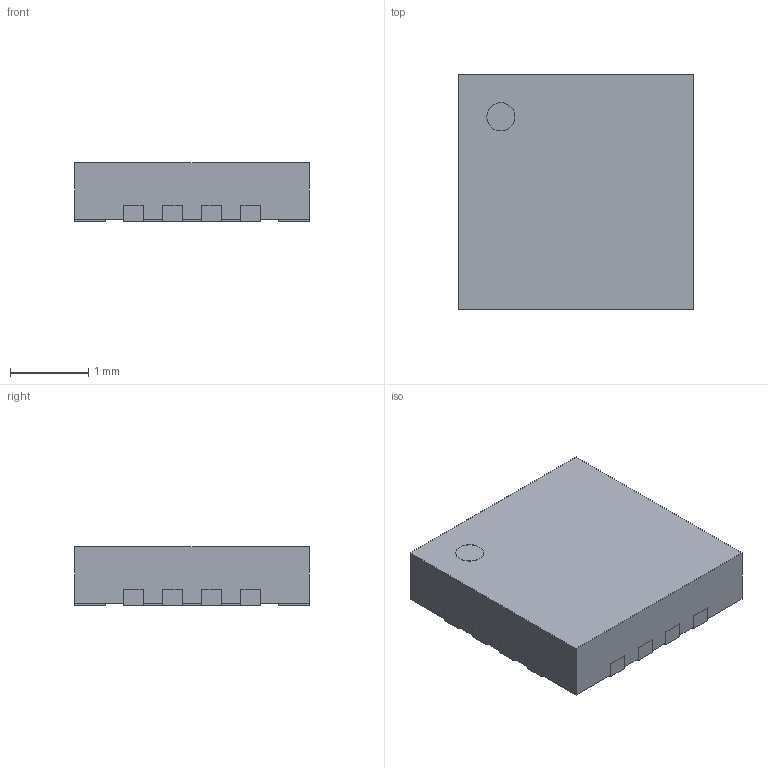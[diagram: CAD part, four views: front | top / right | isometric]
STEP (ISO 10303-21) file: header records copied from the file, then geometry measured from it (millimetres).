
FILE_DESCRIPTION(('Open CASCADE Model'),'2;1');
FILE_NAME('Open CASCADE Shape Model','2026-10-04T11:29:43',('Author'),( 'Open CASCADE'),'Open CASCADE STEP processor 7.9','Open CASCADE 7.9' ,'Unknown');
FILE_SCHEMA(('AUTOMOTIVE_DESIGN { 1 0 10303 214 1 1 1 1 }'));
Length unit declared in the file: millimetre
Products named in the file (4): ADI_UD16_QFN_Nominal; package_body; terminals; illustrative_pin1_index
Assembly tree (3 placements, depth 2):
  ADI_UD16_QFN_Nominal
    package_body
    terminals
    illustrative_pin1_index
Bounding box: 3 x 3 x 0.75 mm (x, y, z)
Volume: 6.6 mm3; surface area: 42.9 mm2
Topology: 19 solids, 19 shells, 182 faces, 426 edges, 284 vertices
Faces by surface type: plane 180, cylinder 2
Full cylindrical faces by diameter (mm): 0.36 x2
Entity records: 10695 total; most frequent: CARTESIAN_POINT 1852, DIRECTION 1550, LINE 1166, VECTOR 1166, ORIENTED_EDGE 852, PCURVE 852, DEFINITIONAL_REPRESENTATION 852, EDGE_CURVE 426
